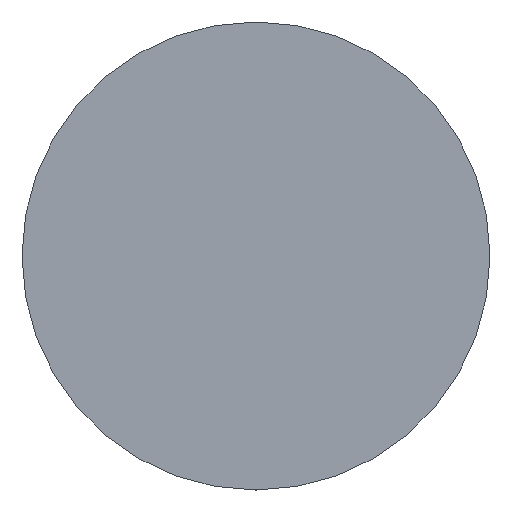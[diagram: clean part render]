
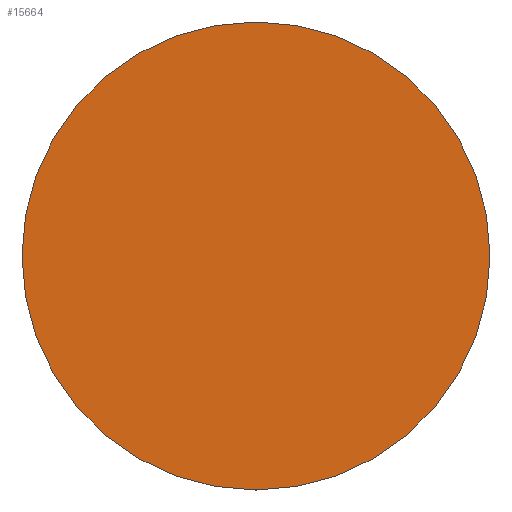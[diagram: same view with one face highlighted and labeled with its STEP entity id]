
A CAD part, top view. The second image highlights one B-rep face of the part: STEP entity #15664.
In plain terms, the highlighted planar face has unit normal (0, 0, 1).
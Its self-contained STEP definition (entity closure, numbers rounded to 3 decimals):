
#15589=CARTESIAN_POINT('',(0.,0.,20.));
#15590=DIRECTION('',(1.,0.,0.));
#15591=DIRECTION('',(0.,0.,1.));
#15592=AXIS2_PLACEMENT_3D('',#15589,#15591,#15590);
#15593=PLANE('',#15592);
#15594=CARTESIAN_POINT('',(-0.5,-350.,20.));
#15595=VERTEX_POINT('',#15594);
#15596=CARTESIAN_POINT('',(0.5,-350.,20.));
#15597=VERTEX_POINT('',#15596);
#15598=CARTESIAN_POINT('',(-0.5,-350.,20.));
#15599=DIRECTION('',(1.,0.,0.));
#15600=VECTOR('',#15599,1.);
#15601=LINE('',#15598,#15600);
#15602=EDGE_CURVE('',#15595,#15597,#15601,.T.);
#15603=ORIENTED_EDGE('E9',*,*,#15602,.T.);
#15604=CARTESIAN_POINT('',(350.,-0.5,20.));
#15605=VERTEX_POINT('',#15604);
#15606=CARTESIAN_POINT('',(0.5,-0.5,20.));
#15607=DIRECTION('',(0.,-1.,0.));
#15608=DIRECTION('',(0.,-0.,1.));
#15609=AXIS2_PLACEMENT_3D('',#15606,#15608,#15607);
#15610=CIRCLE('',#15609,349.5);
#15611=EDGE_CURVE('',#15597,#15605,#15610,.T.);
#15612=ORIENTED_EDGE('E10',*,*,#15611,.T.);
#15613=CARTESIAN_POINT('',(350.,0.5,20.));
#15614=VERTEX_POINT('',#15613);
#15615=CARTESIAN_POINT('',(350.,-0.5,20.));
#15616=DIRECTION('',(0.,1.,0.));
#15617=VECTOR('',#15616,1.);
#15618=LINE('',#15615,#15617);
#15619=EDGE_CURVE('',#15605,#15614,#15618,.T.);
#15620=ORIENTED_EDGE('E11',*,*,#15619,.T.);
#15621=CARTESIAN_POINT('',(0.5,350.,20.));
#15622=VERTEX_POINT('',#15621);
#15623=CARTESIAN_POINT('',(0.5,0.5,20.));
#15624=DIRECTION('',(1.,0.,0.));
#15625=DIRECTION('',(0.,0.,1.));
#15626=AXIS2_PLACEMENT_3D('',#15623,#15625,#15624);
#15627=CIRCLE('',#15626,349.5);
#15628=EDGE_CURVE('',#15614,#15622,#15627,.T.);
#15629=ORIENTED_EDGE('E12',*,*,#15628,.T.);
#15630=CARTESIAN_POINT('',(-0.5,350.,20.));
#15631=VERTEX_POINT('',#15630);
#15632=CARTESIAN_POINT('',(0.5,350.,20.));
#15633=DIRECTION('',(-1.,0.,0.));
#15634=VECTOR('',#15633,1.);
#15635=LINE('',#15632,#15634);
#15636=EDGE_CURVE('',#15622,#15631,#15635,.T.);
#15637=ORIENTED_EDGE('E13',*,*,#15636,.T.);
#15638=CARTESIAN_POINT('',(-350.,0.5,20.));
#15639=VERTEX_POINT('',#15638);
#15640=CARTESIAN_POINT('',(-0.5,0.5,20.));
#15641=DIRECTION('',(0.,1.,0.));
#15642=DIRECTION('',(0.,0.,1.));
#15643=AXIS2_PLACEMENT_3D('',#15640,#15642,#15641);
#15644=CIRCLE('',#15643,349.5);
#15645=EDGE_CURVE('',#15631,#15639,#15644,.T.);
#15646=ORIENTED_EDGE('E14',*,*,#15645,.T.);
#15647=CARTESIAN_POINT('',(-350.,-0.5,20.));
#15648=VERTEX_POINT('',#15647);
#15649=CARTESIAN_POINT('',(-350.,0.5,20.));
#15650=DIRECTION('',(0.,-1.,0.));
#15651=VECTOR('',#15650,1.);
#15652=LINE('',#15649,#15651);
#15653=EDGE_CURVE('',#15639,#15648,#15652,.T.);
#15654=ORIENTED_EDGE('E15',*,*,#15653,.T.);
#15655=CARTESIAN_POINT('',(-0.5,-0.5,20.));
#15656=DIRECTION('',(-1.,0.,0.));
#15657=DIRECTION('',(-0.,0.,1.));
#15658=AXIS2_PLACEMENT_3D('',#15655,#15657,#15656);
#15659=CIRCLE('',#15658,349.5);
#15660=EDGE_CURVE('',#15648,#15595,#15659,.T.);
#15661=ORIENTED_EDGE('E16',*,*,#15660,.T.);
#15662=EDGE_LOOP('',(#15603,#15612,#15620,#15629,#15637,#15646,#15654,#15661));
#15663=FACE_OUTER_BOUND('',#15662,.T.);
#15664=ADVANCED_FACE('F2',(#15663),#15593,.T.);
